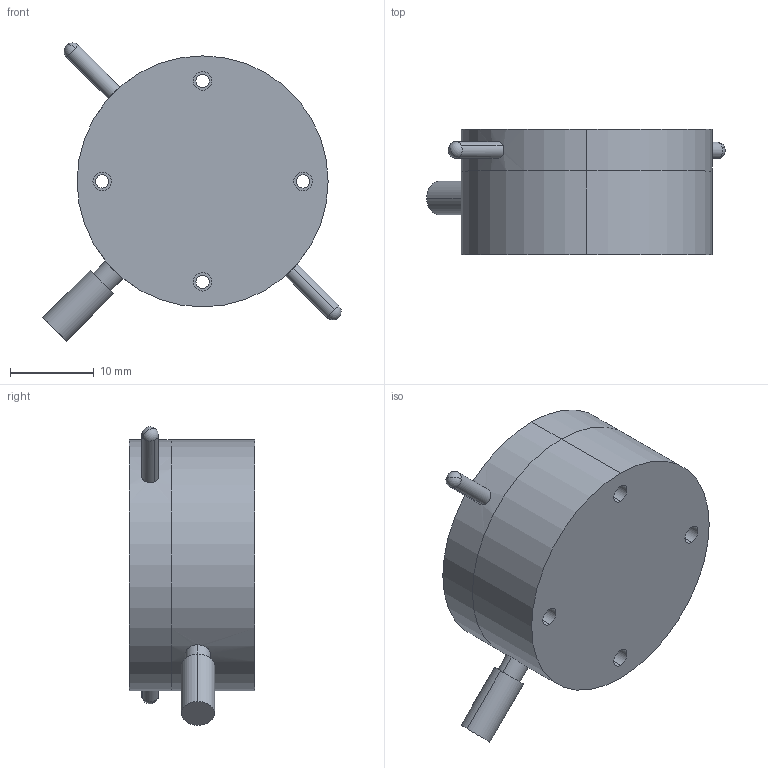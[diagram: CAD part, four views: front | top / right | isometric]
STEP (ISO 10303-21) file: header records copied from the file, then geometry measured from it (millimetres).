
FILE_DESCRIPTION (( 'STEP AP203' ), '1' );
FILE_NAME ('RS-313.STEP', '2008-02-24T23:57:42', ( '' ), ( '' ), 'SwSTEP 2.0', 'SolidWorks 2007', '' );
FILE_SCHEMA (( 'CONFIG_CONTROL_DESIGN' ));
Length unit declared in the file: millimetre
Products named in the file (3): RS-313-2_蹬怮椔; RS-313; RS-313-1_蹬怮椔
Assembly tree (2 placements, depth 2):
  RS-313
    RS-313-2_蹬怮椔
    RS-313-1_蹬怮椔
Bounding box: 35.65 x 15 x 35.65 mm (x, y, z)
Volume: 10148.5 mm3; surface area: 5672.2 mm2
Topology: 2 solids, 2 shells, 79 faces, 181 edges, 118 vertices
Faces by surface type: cylinder 57, plane 18, sphere 4
Entity records: 2754 total; most frequent: CARTESIAN_POINT 542, DIRECTION 449, ORIENTED_EDGE 354, AXIS2_PLACEMENT_3D 197, EDGE_CURVE 177, VERTEX_POINT 118, EDGE_LOOP 115, CIRCLE 113
